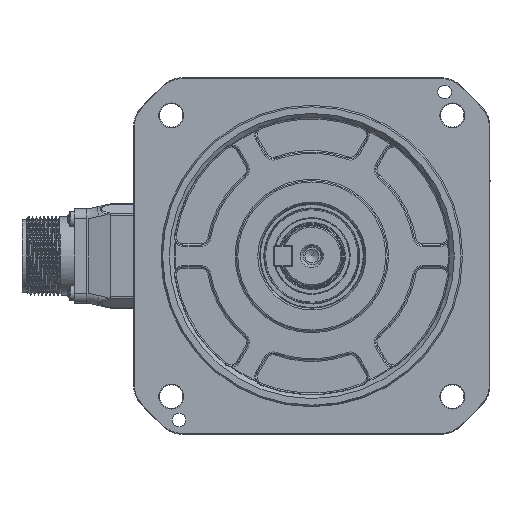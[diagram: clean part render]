
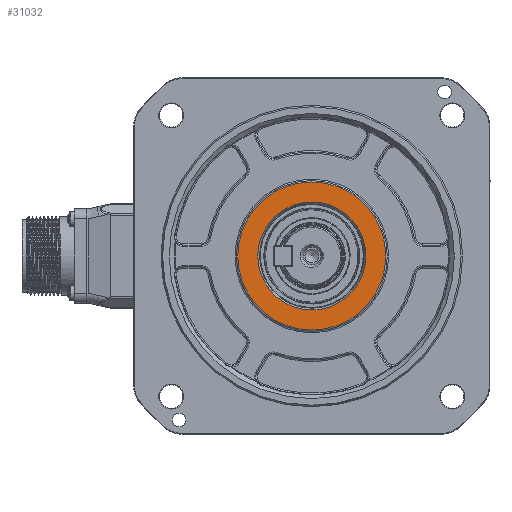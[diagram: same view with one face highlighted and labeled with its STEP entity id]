
A CAD part, left-side view. The second image highlights one B-rep face of the part: STEP entity #31032.
In plain terms, the highlighted planar face has unit normal (-1, 0, 0).
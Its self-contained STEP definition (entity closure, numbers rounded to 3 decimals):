
#1665 = AXIS2_PLACEMENT_3D ( 'NONE', #7841, #39729, #136257 ) ;
#7841 = CARTESIAN_POINT ( 'NONE',  ( 0.8, 0., 0. ) ) ;
#14049 = CIRCLE ( 'NONE', #51659, 27. ) ;
#14974 = AXIS2_PLACEMENT_3D ( 'NONE', #48364, #68533, #57427 ) ;
#25273 = VERTEX_POINT ( 'NONE', #46095 ) ;
#26081 = DIRECTION ( 'NONE',  ( -1., 0., 0. ) ) ;
#31032 = ADVANCED_FACE ( 'NONE', ( #133103, #120676 ), #67860, .F. ) ;
#39729 = DIRECTION ( 'NONE',  ( -1., 0., 0. ) ) ;
#45892 = ORIENTED_EDGE ( 'NONE', *, *, #70030, .F. ) ;
#46021 = CIRCLE ( 'NONE', #1665, 19.693 ) ;
#46095 = CARTESIAN_POINT ( 'NONE',  ( 0.8, 0., -27. ) ) ;
#48364 = CARTESIAN_POINT ( 'NONE',  ( 0.8, 27.5, 0. ) ) ;
#50326 = VERTEX_POINT ( 'NONE', #114942 ) ;
#50944 = EDGE_LOOP ( 'NONE', ( #45892 ) ) ;
#51659 = AXIS2_PLACEMENT_3D ( 'NONE', #110166, #26081, #89972 ) ;
#57427 = DIRECTION ( 'NONE',  ( 0., 0., -1. ) ) ;
#67860 = PLANE ( 'NONE',  #14974 ) ;
#68533 = DIRECTION ( 'NONE',  ( 1., 0., 0. ) ) ;
#70030 = EDGE_CURVE ( 'NONE', #50326, #50326, #46021, .T. ) ;
#89972 = DIRECTION ( 'NONE',  ( 0., 0., -1. ) ) ;
#96968 = ORIENTED_EDGE ( 'NONE', *, *, #105236, .T. ) ;
#105236 = EDGE_CURVE ( 'NONE', #25273, #25273, #14049, .T. ) ;
#110166 = CARTESIAN_POINT ( 'NONE',  ( 0.8, 0., 0. ) ) ;
#114942 = CARTESIAN_POINT ( 'NONE',  ( 0.8, 0., -19.693 ) ) ;
#120676 = FACE_OUTER_BOUND ( 'NONE', #121341, .T. ) ;
#121341 = EDGE_LOOP ( 'NONE', ( #96968 ) ) ;
#133103 = FACE_BOUND ( 'NONE', #50944, .T. ) ;
#136257 = DIRECTION ( 'NONE',  ( 0., 0., -1. ) ) ;
